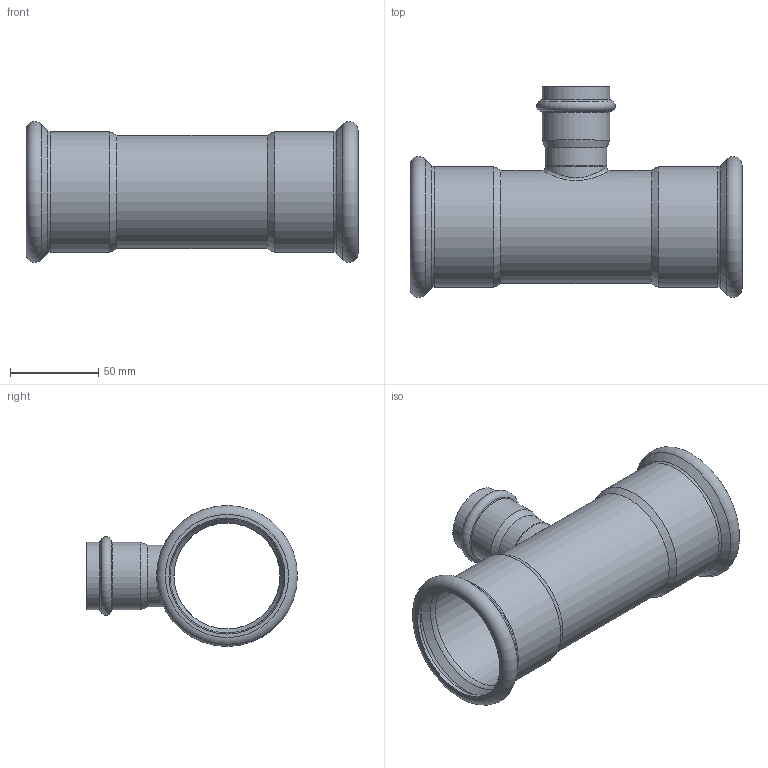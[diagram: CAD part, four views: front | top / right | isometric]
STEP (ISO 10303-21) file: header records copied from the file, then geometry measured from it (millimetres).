
FILE_DESCRIPTION((''),'2;1');
FILE_NAME('G:\Nirosan-Schmiedefeld\Technics\CAD\Bauteile VA\064\69130643564(1).stp','2009-05-08T09:14:12',('herberg'),(''),'Autodesk Inventor 2009','Autodesk Inventor 2009','');
FILE_SCHEMA(('AUTOMOTIVE_DESIGN { 1 0 10303 214 1 1 1 1 }'));
Length unit declared in the file: millimetre
Products named in the file (3): 69130643564(1); LM_69130643564(1); 6924335HM(1)
Assembly tree (2 placements, depth 2):
  69130643564(1)
    LM_69130643564(1)
    6924335HM(1)
Bounding box: 188 x 119.4 x 79.8 mm (x, y, z)
Volume: 90166 mm3; surface area: 94309.4 mm2
Topology: 2 solids, 2 shells, 51 faces, 103 edges, 58 vertices
Faces by surface type: cylinder 16, cone 12, bspline 9, plane 7, torus 7
Full cylindrical faces by diameter (mm): 31 x1, 32 x1, 35 x2, 35.25 x2, 38.25 x2, 60 x1, 64 x1, 64.4 x2, 65.7 x2, 68.4 x2
Entity records: 3334 total; most frequent: CARTESIAN_POINT 2405, DIRECTION 192, ORIENTED_EDGE 108, EDGE_LOOP 102, AXIS2_PLACEMENT_3D 96, EDGE_CURVE 54, VERTEX_POINT 52, FACE_OUTER_BOUND 51
